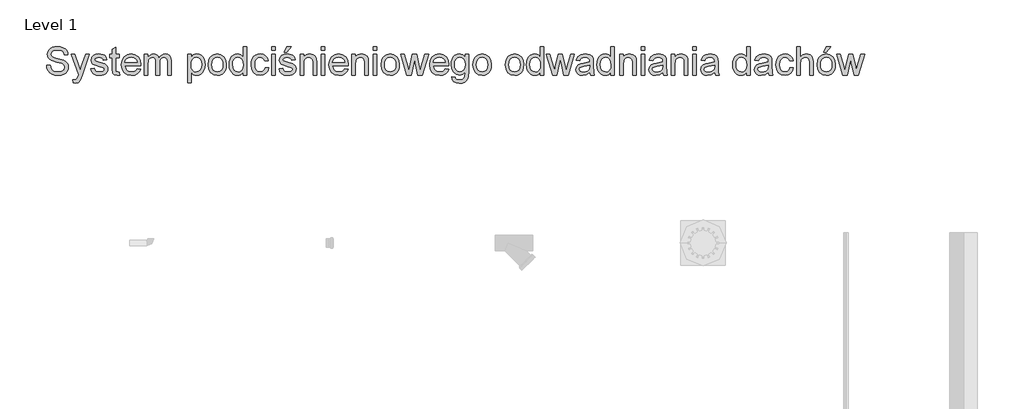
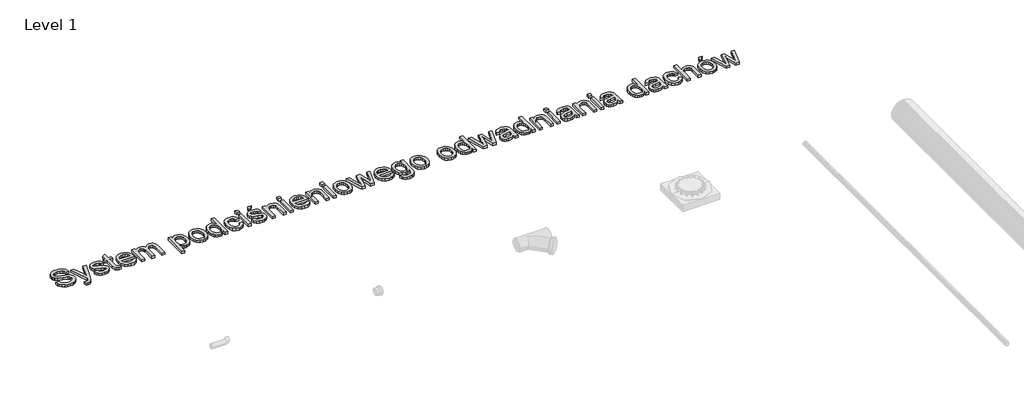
# One storey, part 3 of 3: 1 proxy.
"""IFC4 building model written with IfcOpenShell, lengths in millimetres."""

from ifc_helpers import new_model, si_unit, origin, origin_with_axes, place, context, project, spatial, polyline, outline, extrude, element, save

model = new_model("IFC4")

# Units and contexts
model_context = context("Model", 3, world=origin())
ifc_project = project(units=[si_unit("LENGTHUNIT", "METRE", prefix="MILLI")], contexts=[model_context])

# Site, building, storey
site = spatial("IfcSite", under=ifc_project)
building = spatial("IfcBuilding", under=site)
storey = spatial("IfcBuildingStorey", under=building, Name="Level 1", Elevation=0.0)

# Proxy
placement = place(None, origin())
element("IfcBuildingElementProxy", 1, Name="200mm Arial", ObjectType="200mm Arial", at=placement, inside=storey, context=model_context, shape_type="SweptSolid", body=[
    extrude(outline(polyline([(-18140.1100864, 2259.5263231), (-18114.9960089, 2259.5263231), (-18106.902605, 2234.3877201), (-18098.7724129, 2225.4972385), (-18087.1350791, 2218.4952179), (-18072.9103087, 2213.9518752), (-18057.0178065, 2212.4374277), (-18030.7755575, 2217.0236899), (-18013.8284602, 2229.6297796), (-18008.2611794, 2246.478775), (-18012.4305087, 2262.150548), (-18018.7826044, 2268.3493596), (-18029.5002332, 2273.5548898), (-18066.0677036, 2283.1443471), (-18105.431077, 2295.5297077), (-18117.9329335, 2303.9787308), (-18126.7927582, 2314.218113), (-18132.0718649, 2326.0271251), (-18133.8315671, 2339.1850377), (-18131.6549319, 2353.8941862), (-18125.1250265, 2367.6100532), (-18114.4135291, 2379.2351243), (-18099.6921179, 2387.6718847), (-18082.0215194, 2392.8038385), (-18062.46246, 2394.5144898), (-18041.2724571, 2392.7241308), (-18022.7312045, 2387.3530537), (-18007.5008899, 2378.511623), (-17996.2437009, 2366.3102035), (-17989.1190529, 2351.5090846), (-17986.2863615, 2334.8685557), (-18011.4004391, 2334.8685557), (-18016.0112267, 2349.8536156), (-18025.6252095, 2360.6693463), (-18040.6470577, 2367.2176458), (-18061.4814413, 2369.4004123), (-18082.8063343, 2367.2421712), (-18097.435775, 2360.7674481), (-18105.8970609, 2351.2393045), (-18108.7174895, 2339.9208017), (-18106.718664, 2330.2700307), (-18100.7221875, 2322.5077206), (-18086.5464679, 2315.5670137), (-18059.7156078, 2308.4791539), (-18015.2754628, 2295.8730642), (-18000.9587218, 2286.7618534), (-17990.9707256, 2275.5169271), (-17985.1030078, 2262.2609126), (-17983.1471018, 2247.1164371), (-17985.3973134, 2231.6347365), (-17992.147948, 2217.0727408), (-18003.1230942, 2204.5402275), (-18018.0468404, 2195.1469739), (-18035.9933504, 2189.2792561), (-18056.0367878, 2187.3233501), (-18080.6419619, 2189.4325402), (-18100.8938658, 2195.7601106), (-18117.0254912, 2206.3305866), (-18129.2698303, 2221.1684937), (-18137.1302423, 2239.2437624), (-18140.1100864, 2259.5263231)])), origin_with_axes(), (0.0, 0.0, 1.0), 20.0),
    extrude(outline(polyline([(-17948.6152452, 2133.9559354), (-17951.7545049, 2158.1380452), (-17939.0012624, 2155.9307532), (-17927.0818858, 2158.7021309), (-17919.7732968, 2166.4276528), (-17912.9061662, 2184.9198544), (-17910.9441289, 2191.0021701), (-17964.3115437, 2338.0078154), (-17937.82404, 2338.0078154), (-17909.5216519, 2256.0927578), (-17899.6624144, 2223.3267347), (-17889.8031769, 2252.266785), (-17860.7159738, 2338.0078154), (-17834.4246739, 2338.0078154), (-17885.7810004, 2186.9309427), (-17899.1228541, 2154.1649196), (-17913.6909811, 2136.4575329), (-17933.2623033, 2130.8166757), (-17948.6152452, 2133.9559354)])), origin_with_axes(), (0.0, 0.0, 1.0), 20.0),
    extrude(outline(polyline([(-17823.0448575, 2234.4122455), (-17797.93078, 2237.5515052), (-17793.9699172, 2226.809351), (-17786.305709, 2218.9121508), (-17774.8891044, 2214.0561085), (-17759.6710525, 2212.4374277), (-17744.6369416, 2213.9212184), (-17734.0664656, 2218.3725905), (-17727.8124717, 2224.8227882), (-17725.7278071, 2232.3030554), (-17727.8247345, 2238.7042021), (-17734.1155166, 2243.5847699), (-17759.9653581, 2250.7462061), (-17797.7836272, 2263.0334647), (-17807.3546904, 2269.2077509), (-17814.2892661, 2277.3808626), (-17819.9055978, 2297.6388978), (-17815.392912, 2316.3518286), (-17803.0811279, 2330.6501755), (-17787.1150493, 2338.0813918), (-17765.5081135, 2341.1470751), (-17734.9493824, 2336.2174563), (-17723.5205151, 2330.4171835), (-17715.5252131, 2322.8756026), (-17706.8922489, 2300.3366991), (-17732.0063265, 2297.1974394), (-17735.176243, 2305.1007709), (-17741.448631, 2311.0543279), (-17763.5460762, 2316.0329975), (-17777.9670504, 2314.8435124), (-17787.5810332, 2311.275057), (-17792.9888985, 2306.1247091), (-17794.7915203, 2300.1895463), (-17791.7994134, 2292.8809573), (-17782.4306853, 2287.3382019), (-17760.799224, 2281.9916502), (-17723.937448, 2270.1703755), (-17706.8186725, 2256.7794708), (-17702.1649653, 2246.9324961), (-17700.6137295, 2234.9518058), (-17702.4347454, 2222.5664453), (-17707.897793, 2210.9168488), (-17716.794406, 2200.9165899), (-17728.9161177, 2193.4792422), (-17743.5578211, 2188.8623232), (-17760.014409, 2187.3233501), (-17785.336953, 2190.2909316), (-17803.8168919, 2199.1936759), (-17816.1532015, 2213.9334811), (-17823.0448575, 2234.4122455)])), origin_with_axes(), (0.0, 0.0, 1.0), 20.0),
    extrude(outline(polyline([(-17618.9929775, 2211.4073581), (-17615.8537179, 2189.7268458), (-17634.6402251, 2187.3233501), (-17655.6830752, 2191.4926794), (-17666.1799748, 2202.4310374), (-17669.2211326, 2230.9296293), (-17669.2211326, 2312.8937378), (-17688.0566908, 2312.8937378), (-17688.0566908, 2338.0078154), (-17669.2211326, 2338.0078154), (-17669.2211326, 2373.8640472), (-17644.1070551, 2388.6283779), (-17644.1070551, 2338.0078154), (-17618.9929775, 2338.0078154), (-17618.9929775, 2312.8937378), (-17644.1070551, 2312.8937378), (-17644.1070551, 2231.6653933), (-17642.7826799, 2218.7159471), (-17638.4907233, 2214.1296849), (-17629.9313355, 2212.4374277), (-17618.9929775, 2211.4073581)])), origin_with_axes(), (0.0, 0.0, 1.0), 20.0),
    extrude(outline(polyline([(-17490.5776358, 2234.4122455), (-17465.9540676, 2231.2729858), (-17474.826155, 2212.7194705), (-17488.9834805, 2198.8503193), (-17508.1072128, 2190.2050924), (-17531.8785211, 2187.3233501), (-17561.3458689, 2192.2958884), (-17584.0196625, 2207.2135033), (-17598.4774249, 2231.1074389), (-17603.2966791, 2263.0089393), (-17598.428374, 2295.9834288), (-17583.8234588, 2320.6437852), (-17561.4562335, 2336.0212526), (-17533.3009981, 2341.1470751), (-17506.0225482, 2336.0335153), (-17484.22554, 2320.6928361), (-17469.9333245, 2296.0815306), (-17465.1692526, 2263.1560921), (-17465.3164054, 2256.3870634), (-17578.1826015, 2256.3870634), (-17573.8354626, 2237.5882934), (-17563.7371019, 2223.7681931), (-17549.1628435, 2215.270119), (-17531.3880118, 2212.4374277), (-17506.7644436, 2217.6858775), (-17497.6164446, 2224.4916944), (-17490.5776358, 2234.4122455)]), holes=[polyline([(-17578.1826015, 2281.5011409), (-17490.2833302, 2281.5011409), (-17493.6801073, 2294.7694182), (-17500.3387714, 2304.2607737), (-17514.9804748, 2313.0899416), (-17533.3991, 2316.0329975), (-17550.3278031, 2313.6846841), (-17564.3257131, 2306.6397439), (-17574.0561918, 2295.6584664), (-17578.1826015, 2281.5011409)])]), origin_with_axes(), (0.0, 0.0, 1.0), 20.0),
    extrude(outline(polyline([(-17440.0551751, 2190.4626098), (-17440.0551751, 2338.0078154), (-17414.9410976, 2338.0078154), (-17414.9410976, 2313.7276037), (-17407.3872539, 2324.8805595), (-17397.6751692, 2333.6177569), (-17386.1359373, 2339.2647455), (-17373.100652, 2341.1470751), (-17359.1333989, 2339.2279573), (-17347.9375235, 2333.4706041), (-17339.5743395, 2324.2551601), (-17334.1051605, 2311.9617701), (-17324.9510302, 2324.730341), (-17314.5093129, 2333.8507488), (-17302.7800086, 2339.3229935), (-17289.7631173, 2341.1470751), (-17270.8846396, 2338.1120486), (-17256.9235179, 2329.0069692), (-17248.2966851, 2313.5865823), (-17245.4210742, 2291.605633), (-17245.4210742, 2190.4626098), (-17270.5351517, 2190.4626098), (-17270.5351517, 2280.8144278), (-17272.865071, 2301.7837016), (-17281.3018314, 2312.1089229), (-17295.6492293, 2316.0329975), (-17309.2547317, 2313.5191372), (-17320.3463739, 2305.9775563), (-17327.7224079, 2292.89322), (-17330.1810859, 2273.7510935), (-17330.1810859, 2190.4626098), (-17355.2951634, 2190.4626098), (-17355.2951634, 2283.610331), (-17356.7482973, 2297.810576), (-17361.1076989, 2307.9395936), (-17368.7780385, 2314.0096465), (-17380.1639863, 2316.0329975), (-17398.7542898, 2310.6373949), (-17406.1119297, 2303.9909935), (-17411.1151248, 2294.8429946), (-17414.9410976, 2264.8728747), (-17414.9410976, 2190.4626098), (-17440.0551751, 2190.4626098)])), origin_with_axes(), (0.0, 0.0, 1.0), 20.0),
    extrude(outline(polyline([(-17129.2684656, 2133.9559354), (-17129.2684656, 2338.0078154), (-17104.154388, 2338.0078154), (-17104.154388, 2313.3842472), (-17086.7903579, 2334.2063681), (-17076.0972545, 2339.4118983), (-17063.344012, 2341.1470751), (-17046.3601266, 2338.7190539), (-17031.5099567, 2331.4349904), (-17019.4189018, 2319.7363429), (-17010.7123613, 2304.0645699), (-17005.4516487, 2285.5601056), (-17003.6980779, 2265.363384), (-17005.6785093, 2243.8852069), (-17011.6198035, 2224.6756354), (-17021.3318882, 2208.7095568), (-17034.6246909, 2196.9618584), (-17050.1063916, 2189.7329772), (-17066.3851699, 2187.3233501), (-17077.9305331, 2188.9358996), (-17088.2373604, 2193.7735478), (-17104.154388, 2210.0829829), (-17104.154388, 2133.9559354), (-17129.2684656, 2133.9559354)]), holes=[polyline([(-17104.154388, 2263.0579902), (-17101.4381926, 2240.5436121), (-17093.2896064, 2224.7982627), (-17081.2659966, 2215.5276364), (-17066.9247301, 2212.4374277), (-17052.3504717, 2215.638001), (-17040.0202935, 2225.2397211), (-17031.6141899, 2241.561419), (-17028.8121554, 2264.9219257), (-17031.5467449, 2287.3136764), (-17039.7505134, 2303.279755), (-17051.7557292, 2312.8446869), (-17065.8946605, 2316.0329975), (-17080.0887742, 2312.6423518), (-17092.5538424, 2302.4704146), (-17101.2542516, 2285.8360171), (-17104.154388, 2263.0579902)])]), origin_with_axes(), (0.0, 0.0, 1.0), 20.0),
    extrude(outline(polyline([(-16981.72326, 2264.2352126), (-16976.2908692, 2299.8094015), (-16969.5003807, 2313.6325675), (-16959.9936969, 2324.8131145), (-16939.858289, 2337.0635849), (-16915.7497556, 2341.1470751), (-16889.3664851, 2336.1745368), (-16868.2929782, 2321.2569219), (-16854.4790093, 2297.5714527), (-16849.874353, 2266.2953518), (-16851.9099667, 2240.9237568), (-16858.0168078, 2221.6099521), (-16868.0170667, 2207.1460583), (-16881.7329337, 2196.3241963), (-16898.0239748, 2189.5735617), (-16915.7497556, 2187.3233501), (-16942.451857, 2192.2774943), (-16963.5008385, 2207.1399269), (-16977.1676547, 2231.3220368), (-16981.72326, 2264.2352126)]), holes=[polyline([(-16956.6091825, 2264.2842635), (-16953.7029147, 2241.5552876), (-16944.9841114, 2225.3623484), (-16931.862987, 2215.6686579), (-16915.7497556, 2212.4374277), (-16899.7101006, 2215.687052), (-16886.6135015, 2225.4359248), (-16877.8946983, 2241.8434618), (-16874.9884305, 2265.0690785), (-16877.9130924, 2287.1358668), (-16886.6870779, 2303.1080768), (-16899.8020711, 2312.8017673), (-16915.7497556, 2316.0329975), (-16931.862987, 2312.8140301), (-16944.9841114, 2303.1571277), (-16953.7029147, 2287.0009767), (-16956.6091825, 2264.2842635)])]), origin_with_axes(), (0.0, 0.0, 1.0), 20.0),
    extrude(outline(polyline([(-16730.5824847, 2190.4626098), (-16730.5824847, 2214.1542103), (-16738.0964744, 2202.415709), (-16747.1984881, 2194.0310652), (-16757.8885258, 2189.0002789), (-16770.1665873, 2187.3233501), (-16786.4024461, 2189.7513713), (-16801.2648787, 2197.0354348), (-16813.8464429, 2208.6666372), (-16823.2396965, 2224.1360751), (-16829.0890202, 2242.8183491), (-16831.0387948, 2264.0880598), (-16829.2423044, 2285.0941217), (-16823.8528332, 2304.0645699), (-16814.8765125, 2319.9202839), (-16802.3194737, 2331.5821432), (-16787.1320787, 2338.7558421), (-16770.2646892, 2341.1470751), (-16757.9774306, 2339.4364238), (-16747.112649, 2334.3044699), (-16730.5824847, 2316.5235068), (-16730.5824847, 2391.3752301), (-16705.4684071, 2391.3752301), (-16705.4684071, 2190.4626098), (-16730.5824847, 2190.4626098)]), holes=[polyline([(-16805.9247173, 2264.1861617), (-16803.0920259, 2241.4694485), (-16794.5939518, 2225.3132975), (-16782.2453795, 2215.6563951), (-16767.8611935, 2212.4374277), (-16753.4831389, 2215.5092423), (-16741.4472663, 2224.7246863), (-16733.2986801, 2240.2554379), (-16730.5824847, 2262.2731753), (-16733.347731, 2286.3449205), (-16741.64347, 2303.0345004), (-16753.9859109, 2312.7833732), (-16768.8912631, 2316.0329975), (-16783.4226019, 2312.9121319), (-16795.3297158, 2303.5495351), (-16803.2759669, 2287.4669606), (-16805.9247173, 2264.1861617)])]), origin_with_axes(), (0.0, 0.0, 1.0), 20.0),
    extrude(outline(polyline([(-16573.6195001, 2243.8300246), (-16548.5054225, 2240.6907649), (-16555.5074432, 2218.3541964), (-16568.6653559, 2201.4745442), (-16586.7406245, 2190.8611487), (-16608.4947132, 2187.3233501), (-16635.2090774, 2192.2591002), (-16656.0986434, 2207.0663505), (-16669.5815185, 2231.0951762), (-16674.0758102, 2263.6956523), (-16672.1566925, 2286.0444835), (-16666.3993392, 2305.4134706), (-16656.71178, 2321.0545868), (-16643.0020443, 2332.2198053), (-16626.6006387, 2338.9152576), (-16608.8380697, 2341.1470751), (-16587.61741, 2338.0813918), (-16570.6519186, 2328.8843419), (-16558.481156, 2314.0464347), (-16551.6446822, 2294.0581797), (-16576.7587597, 2290.91892), (-16581.3143651, 2301.8756721), (-16588.4083563, 2309.7299527), (-16597.6483257, 2314.4572363), (-16608.641866, 2316.0329975), (-16624.8715933, 2312.930526), (-16637.7535945, 2303.6231115), (-16646.1596981, 2287.607982), (-16648.9617327, 2264.3823654), (-16646.2210118, 2240.8440491), (-16637.9988492, 2224.7737372), (-16625.3498399, 2215.5215051), (-16609.3285791, 2212.4374277), (-16596.3239505, 2214.3626768), (-16585.661504, 2220.1384241), (-16577.9053253, 2229.9118224), (-16573.6195001, 2243.8300246)])), origin_with_axes(), (0.0, 0.0, 1.0), 20.0),
    extrude(outline(polyline([(-16526.5306047, 2366.2611526), (-16526.5306047, 2391.3752301), (-16501.4165271, 2391.3752301), (-16501.4165271, 2366.2611526), (-16526.5306047, 2366.2611526)])), origin_with_axes(), (0.0, 0.0, 1.0), 20.0),
    extrude(outline(polyline([(-16526.5306047, 2190.4626098), (-16526.5306047, 2338.0078154), (-16501.4165271, 2338.0078154), (-16501.4165271, 2190.4626098), (-16526.5306047, 2190.4626098)])), origin_with_axes(), (0.0, 0.0, 1.0), 20.0),
    extrude(outline(polyline([(-16473.1631899, 2234.4122455), (-16448.0491124, 2237.5515052), (-16444.0882496, 2226.809351), (-16436.4240413, 2218.9121508), (-16425.0074367, 2214.0561085), (-16409.7893849, 2212.4374277), (-16394.755274, 2213.9212184), (-16384.184798, 2218.3725905), (-16377.9308041, 2224.8227882), (-16375.8461394, 2232.3030554), (-16377.9430668, 2238.7042021), (-16384.2338489, 2243.5847699), (-16410.0836905, 2250.7462061), (-16447.9019596, 2263.0334647), (-16457.4730228, 2269.2077509), (-16464.4075984, 2277.3808626), (-16470.0239302, 2297.6388978), (-16465.5112444, 2316.3518286), (-16453.1994603, 2330.6501755), (-16437.2333817, 2338.0813918), (-16415.6264459, 2341.1470751), (-16385.0677148, 2336.2174563), (-16373.6388475, 2330.4171835), (-16365.6435454, 2322.8756026), (-16357.0105813, 2300.3366991), (-16382.1246588, 2297.1974394), (-16385.2945754, 2305.1007709), (-16391.5669634, 2311.0543279), (-16413.6644085, 2316.0329975), (-16428.0853828, 2314.8435124), (-16437.6993656, 2311.275057), (-16443.1072309, 2306.1247091), (-16444.9098527, 2300.1895463), (-16441.9177458, 2292.8809573), (-16432.5490176, 2287.3382019), (-16410.9175563, 2281.9916502), (-16374.0557804, 2270.1703755), (-16356.9370049, 2256.7794708), (-16352.2832977, 2246.9324961), (-16350.7320619, 2234.9518058), (-16352.5530778, 2222.5664453), (-16358.0161254, 2210.9168488), (-16366.9127383, 2200.9165899), (-16379.0344501, 2193.4792422), (-16393.6761535, 2188.8623232), (-16410.1327414, 2187.3233501), (-16435.4552854, 2190.2909316), (-16453.9352243, 2199.1936759), (-16466.2715339, 2213.9334811), (-16473.1631899, 2234.4122455)])), origin_with_axes(), (0.0, 0.0, 1.0), 20.0),
    extrude(outline(polyline([(-16435.4920736, 2353.7041138), (-16416.6565154, 2391.3752301), (-16385.2639185, 2391.3752301), (-16416.6565154, 2353.7041138), (-16435.4920736, 2353.7041138)])), origin_with_axes(), (0.0, 0.0, 1.0), 20.0),
    extrude(outline(polyline([(-16322.4787247, 2190.4626098), (-16322.4787247, 2338.0078154), (-16297.3646471, 2338.0078154), (-16297.3646471, 2317.4064236), (-16288.6397125, 2327.7929586), (-16278.161207, 2335.2119122), (-16265.9291307, 2339.6632843), (-16251.9434835, 2341.1470751), (-16228.2273575, 2336.3646091), (-16212.0405497, 2323.8075704), (-16204.5112316, 2305.3398942), (-16203.1868564, 2281.0596825), (-16203.1868564, 2190.4626098), (-16228.3009339, 2190.4626098), (-16228.3009339, 2277.6751682), (-16231.1949389, 2299.8952407), (-16241.4220584, 2311.642939), (-16258.6634612, 2316.0329975), (-16273.3726097, 2313.5681882), (-16285.9112544, 2306.17376), (-16294.5012989, 2291.8876759), (-16297.3646471, 2268.7478984), (-16297.3646471, 2190.4626098), (-16322.4787247, 2190.4626098)])), origin_with_axes(), (0.0, 0.0, 1.0), 20.0),
    extrude(outline(polyline([(-16168.6549998, 2190.4626098), (-16168.6549998, 2338.0078154), (-16143.5409222, 2338.0078154), (-16143.5409222, 2190.4626098), (-16168.6549998, 2190.4626098)])), origin_with_axes(), (0.0, 0.0, 1.0), 20.0),
    extrude(outline(polyline([(-16168.6549998, 2366.2611526), (-16168.6549998, 2391.3752301), (-16143.5409222, 2391.3752301), (-16143.5409222, 2366.2611526), (-16168.6549998, 2366.2611526)])), origin_with_axes(), (0.0, 0.0, 1.0), 20.0),
    extrude(outline(polyline([(-16002.5685417, 2234.4122455), (-15977.9449735, 2231.2729858), (-15986.8170609, 2212.7194705), (-16000.9743864, 2198.8503193), (-16020.0981187, 2190.2050924), (-16043.869427, 2187.3233501), (-16073.3367748, 2192.2958884), (-16096.0105684, 2207.2135033), (-16110.4683309, 2231.1074389), (-16115.287585, 2263.0089393), (-16110.4192799, 2295.9834288), (-16095.8143647, 2320.6437852), (-16073.4471394, 2336.0212526), (-16045.291904, 2341.1470751), (-16018.0134541, 2336.0335153), (-15996.2164459, 2320.6928361), (-15981.9242304, 2296.0815306), (-15977.1601585, 2263.1560921), (-15977.3073113, 2256.3870634), (-16090.1735075, 2256.3870634), (-16085.8263685, 2237.5882934), (-16075.7280078, 2223.7681931), (-16061.1537494, 2215.270119), (-16043.3789177, 2212.4374277), (-16018.7553495, 2217.6858775), (-16009.6073505, 2224.4916944), (-16002.5685417, 2234.4122455)]), holes=[polyline([(-16090.1735075, 2281.5011409), (-16002.2742361, 2281.5011409), (-16005.6710132, 2294.7694182), (-16012.3296773, 2304.2607737), (-16026.9713807, 2313.0899416), (-16045.3900059, 2316.0329975), (-16062.3187091, 2313.6846841), (-16076.316619, 2306.6397439), (-16086.0470977, 2295.6584664), (-16090.1735075, 2281.5011409)])]), origin_with_axes(), (0.0, 0.0, 1.0), 20.0),
    extrude(outline(polyline([(-15952.046081, 2190.4626098), (-15952.046081, 2338.0078154), (-15926.9320035, 2338.0078154), (-15926.9320035, 2317.4064236), (-15918.2070688, 2327.7929586), (-15907.7285633, 2335.2119122), (-15895.496487, 2339.6632843), (-15881.5108398, 2341.1470751), (-15857.7947138, 2336.3646091), (-15841.607906, 2323.8075704), (-15834.0785879, 2305.3398942), (-15832.7542127, 2281.0596825), (-15832.7542127, 2190.4626098), (-15857.8682902, 2190.4626098), (-15857.8682902, 2277.6751682), (-15860.7622953, 2299.8952407), (-15870.9894147, 2311.642939), (-15888.2308176, 2316.0329975), (-15902.939966, 2313.5681882), (-15915.4786107, 2306.17376), (-15924.0686553, 2291.8876759), (-15926.9320035, 2268.7478984), (-15926.9320035, 2190.4626098), (-15952.046081, 2190.4626098)])), origin_with_axes(), (0.0, 0.0, 1.0), 20.0),
    extrude(outline(polyline([(-15798.2223561, 2366.2611526), (-15798.2223561, 2391.3752301), (-15773.1082785, 2391.3752301), (-15773.1082785, 2366.2611526), (-15798.2223561, 2366.2611526)])), origin_with_axes(), (0.0, 0.0, 1.0), 20.0),
    extrude(outline(polyline([(-15798.2223561, 2190.4626098), (-15798.2223561, 2338.0078154), (-15773.1082785, 2338.0078154), (-15773.1082785, 2190.4626098), (-15798.2223561, 2190.4626098)])), origin_with_axes(), (0.0, 0.0, 1.0), 20.0),
    extrude(outline(polyline([(-15741.7156816, 2264.2352126), (-15736.2832908, 2299.8094015), (-15729.4928023, 2313.6325675), (-15719.9861184, 2324.8131145), (-15699.8507106, 2337.0635849), (-15675.7421772, 2341.1470751), (-15649.3589067, 2336.1745368), (-15628.2853998, 2321.2569219), (-15614.4714309, 2297.5714527), (-15609.8667746, 2266.2953518), (-15611.9023883, 2240.9237568), (-15618.0092294, 2221.6099521), (-15628.0094883, 2207.1460583), (-15641.7253553, 2196.3241963), (-15658.0163964, 2189.5735617), (-15675.7421772, 2187.3233501), (-15702.4442786, 2192.2774943), (-15723.4932601, 2207.1399269), (-15737.1600763, 2231.3220368), (-15741.7156816, 2264.2352126)]), holes=[polyline([(-15716.6016041, 2264.2842635), (-15713.6953363, 2241.5552876), (-15704.976533, 2225.3623484), (-15691.8554085, 2215.6686579), (-15675.7421772, 2212.4374277), (-15659.7025222, 2215.687052), (-15646.6059231, 2225.4359248), (-15637.8871199, 2241.8434618), (-15634.9808521, 2265.0690785), (-15637.905514, 2287.1358668), (-15646.6794995, 2303.1080768), (-15659.7944927, 2312.8017673), (-15675.7421772, 2316.0329975), (-15691.8554085, 2312.8140301), (-15704.976533, 2303.1571277), (-15713.6953363, 2287.0009767), (-15716.6016041, 2264.2842635)])]), origin_with_axes(), (0.0, 0.0, 1.0), 20.0),
    extrude(outline(polyline([(-15557.1370219, 2190.4626098), (-15602.0186253, 2338.0078154), (-15575.9235291, 2338.0078154), (-15550.4660951, 2251.9234285), (-15542.8632005, 2221.1684937), (-15536.633732, 2250.795257), (-15516.3756968, 2338.0078154), (-15486.4546279, 2338.0078154), (-15466.2946946, 2251.0405117), (-15460.7519392, 2224.2096515), (-15452.8056881, 2252.5120397), (-15427.2992031, 2338.0078154), (-15401.106005, 2338.0078154), (-15446.330965, 2190.4626098), (-15476.6934923, 2190.4626098), (-15495.9705088, 2276.9884551), (-15501.5623152, 2303.9664681), (-15526.431138, 2190.4626098), (-15557.1370219, 2190.4626098)])), origin_with_axes(), (0.0, 0.0, 1.0), 20.0),
    extrude(outline(polyline([(-15280.5388125, 2234.4122455), (-15255.9152443, 2231.2729858), (-15264.7873317, 2212.7194705), (-15278.9446572, 2198.8503193), (-15298.0683895, 2190.2050924), (-15321.8396978, 2187.3233501), (-15351.3070456, 2192.2958884), (-15373.9808392, 2207.2135033), (-15388.4386017, 2231.1074389), (-15393.2578558, 2263.0089393), (-15388.3895507, 2295.9834288), (-15373.7846355, 2320.6437852), (-15351.4174102, 2336.0212526), (-15323.2621748, 2341.1470751), (-15295.9837249, 2336.0335153), (-15274.1867167, 2320.6928361), (-15259.8945012, 2296.0815306), (-15255.1304293, 2263.1560921), (-15255.2775821, 2256.3870634), (-15368.1437783, 2256.3870634), (-15363.7966393, 2237.5882934), (-15353.6982786, 2223.7681931), (-15339.1240202, 2215.270119), (-15321.3491885, 2212.4374277), (-15296.7256203, 2217.6858775), (-15287.5776213, 2224.4916944), (-15280.5388125, 2234.4122455)]), holes=[polyline([(-15368.1437783, 2281.5011409), (-15280.2445069, 2281.5011409), (-15283.641284, 2294.7694182), (-15290.2999481, 2304.2607737), (-15304.9416515, 2313.0899416), (-15323.3602767, 2316.0329975), (-15340.2889799, 2313.6846841), (-15354.2868898, 2306.6397439), (-15364.0173685, 2295.6584664), (-15368.1437783, 2281.5011409)])]), origin_with_axes(), (0.0, 0.0, 1.0), 20.0),
    extrude(outline(polyline([(-15236.2948712, 2177.9055711), (-15211.1807936, 2174.7663114), (-15208.409416, 2166.9181621), (-15203.0383388, 2161.5225595), (-15192.4801256, 2157.3287048), (-15178.6600253, 2155.9307532), (-15163.92022, 2157.5126458), (-15152.9573365, 2162.2583235), (-15145.354442, 2169.8612181), (-15140.6946034, 2180.0147612), (-15138.9778207, 2209.298168), (-15156.660682, 2195.1714994), (-15178.2185669, 2190.4626098), (-15204.111328, 2195.9440516), (-15223.4190014, 2212.3883767), (-15235.4303485, 2236.4969102), (-15239.4341309, 2264.9709766), (-15237.6376405, 2285.2474059), (-15232.2481692, 2303.8928917), (-15223.4557896, 2319.6934234), (-15211.4505738, 2331.4349904), (-15196.6433235, 2338.7190539), (-15179.4448402, 2341.1470751), (-15157.0408267, 2335.6533706), (-15138.9778207, 2319.1722572), (-15138.9778207, 2338.0078154), (-15113.8637432, 2338.0078154), (-15113.8637432, 2210.6225432), (-15115.5805258, 2181.2103777), (-15120.7308738, 2161.8413906), (-15129.6029612, 2148.9961776), (-15142.4849624, 2139.1553342), (-15159.0948345, 2132.9013403), (-15179.1505346, 2130.8166757), (-15202.5171727, 2133.7536003), (-15220.9174038, 2142.5643741), (-15232.7202845, 2157.2735225), (-15236.2948712, 2177.9055711)]), holes=[polyline([(-15214.3200533, 2266.6877592), (-15211.6406461, 2243.652215), (-15203.6024245, 2227.8148951), (-15191.517501, 2218.6362393), (-15176.697988, 2215.5766874), (-15161.9888395, 2218.6178452), (-15149.8426023, 2227.7413187), (-15141.6940161, 2243.3763035), (-15138.9778207, 2265.9519952), (-15141.7737239, 2287.724478), (-15150.1614334, 2303.4023824), (-15162.4854802, 2312.8753437), (-15177.0903954, 2316.0329975), (-15191.4316619, 2312.9243947), (-15203.4552717, 2303.5985861), (-15211.6038579, 2288.1536737), (-15214.3200533, 2266.6877592)])]), origin_with_axes(), (0.0, 0.0, 1.0), 20.0),
    extrude(outline(polyline([(-15082.4711463, 2264.2352126), (-15077.0387555, 2299.8094015), (-15070.248267, 2313.6325675), (-15060.7415831, 2324.8131145), (-15040.6061752, 2337.0635849), (-15016.4976418, 2341.1470751), (-14990.1143714, 2336.1745368), (-14969.0408644, 2321.2569219), (-14955.2268955, 2297.5714527), (-14950.6222392, 2266.2953518), (-14952.6578529, 2240.9237568), (-14958.764694, 2221.6099521), (-14968.7649529, 2207.1460583), (-14982.48082, 2196.3241963), (-14998.771861, 2189.5735617), (-15016.4976418, 2187.3233501), (-15043.1997433, 2192.2774943), (-15064.2487248, 2207.1399269), (-15077.9155409, 2231.3220368), (-15082.4711463, 2264.2352126)]), holes=[polyline([(-15057.3570687, 2264.2842635), (-15054.450801, 2241.5552876), (-15045.7319977, 2225.3623484), (-15032.6108732, 2215.6686579), (-15016.4976418, 2212.4374277), (-15000.4579868, 2215.687052), (-14987.3613878, 2225.4359248), (-14978.6425845, 2241.8434618), (-14975.7363167, 2265.0690785), (-14978.6609786, 2287.1358668), (-14987.4349642, 2303.1080768), (-15000.5499573, 2312.8017673), (-15016.4976418, 2316.0329975), (-15032.6108732, 2312.8140301), (-15045.7319977, 2303.1571277), (-15054.450801, 2287.0009767), (-15057.3570687, 2264.2842635)])]), origin_with_axes(), (0.0, 0.0, 1.0), 20.0),
    extrude(outline(polyline([(-14850.165929, 2264.2352126), (-14844.7335383, 2299.8094015), (-14837.9430498, 2313.6325675), (-14828.4363659, 2324.8131145), (-14808.300958, 2337.0635849), (-14784.1924246, 2341.1470751), (-14757.8091542, 2336.1745368), (-14736.7356472, 2321.2569219), (-14722.9216783, 2297.5714527), (-14718.317022, 2266.2953518), (-14720.3526357, 2240.9237568), (-14726.4594768, 2221.6099521), (-14736.4597357, 2207.1460583), (-14750.1756028, 2196.3241963), (-14766.4666438, 2189.5735617), (-14784.1924246, 2187.3233501), (-14810.8945261, 2192.2774943), (-14831.9435076, 2207.1399269), (-14845.6103237, 2231.3220368), (-14850.165929, 2264.2352126)]), holes=[polyline([(-14825.0518515, 2264.2842635), (-14822.1455837, 2241.5552876), (-14813.4267805, 2225.3623484), (-14800.305656, 2215.6686579), (-14784.1924246, 2212.4374277), (-14768.1527696, 2215.687052), (-14755.0561706, 2225.4359248), (-14746.3373673, 2241.8434618), (-14743.4310995, 2265.0690785), (-14746.3557614, 2287.1358668), (-14755.129747, 2303.1080768), (-14768.2447401, 2312.8017673), (-14784.1924246, 2316.0329975), (-14800.305656, 2312.8140301), (-14813.4267805, 2303.1571277), (-14822.1455837, 2287.0009767), (-14825.0518515, 2264.2842635)])]), origin_with_axes(), (0.0, 0.0, 1.0), 20.0),
    extrude(outline(polyline([(-14599.0251537, 2190.4626098), (-14599.0251537, 2214.1542103), (-14606.5391434, 2202.415709), (-14615.6411571, 2194.0310652), (-14626.3311948, 2189.0002789), (-14638.6092564, 2187.3233501), (-14654.8451151, 2189.7513713), (-14669.7075477, 2197.0354348), (-14682.2891119, 2208.6666372), (-14691.6823655, 2224.1360751), (-14697.5316892, 2242.8183491), (-14699.4814638, 2264.0880598), (-14697.6849734, 2285.0941217), (-14692.2955022, 2304.0645699), (-14683.3191815, 2319.9202839), (-14670.7621427, 2331.5821432), (-14655.5747477, 2338.7558421), (-14638.7073582, 2341.1470751), (-14626.4200996, 2339.4364238), (-14615.555318, 2334.3044699), (-14599.0251537, 2316.5235068), (-14599.0251537, 2391.3752301), (-14573.9110761, 2391.3752301), (-14573.9110761, 2190.4626098), (-14599.0251537, 2190.4626098)]), holes=[polyline([(-14674.3673863, 2264.1861617), (-14671.5346949, 2241.4694485), (-14663.0366208, 2225.3132975), (-14650.6880485, 2215.6563951), (-14636.3038625, 2212.4374277), (-14621.9258079, 2215.5092423), (-14609.8899353, 2224.7246863), (-14601.7413491, 2240.2554379), (-14599.0251537, 2262.2731753), (-14601.7904, 2286.3449205), (-14610.086139, 2303.0345004), (-14622.4285799, 2312.7833732), (-14637.3339321, 2316.0329975), (-14651.8652709, 2312.9121319), (-14663.7723848, 2303.5495351), (-14671.7186359, 2287.4669606), (-14674.3673863, 2264.1861617)])]), origin_with_axes(), (0.0, 0.0, 1.0), 20.0),
    extrude(outline(polyline([(-14511.7635444, 2190.4626098), (-14556.6451478, 2338.0078154), (-14530.5500516, 2338.0078154), (-14505.0926176, 2251.9234285), (-14497.489723, 2221.1684937), (-14491.2602546, 2250.795257), (-14471.0022194, 2338.0078154), (-14441.0811504, 2338.0078154), (-14420.9212171, 2251.0405117), (-14415.3784617, 2224.2096515), (-14407.4322106, 2252.5120397), (-14381.9257256, 2338.0078154), (-14355.7325275, 2338.0078154), (-14400.9574875, 2190.4626098), (-14431.3200148, 2190.4626098), (-14450.5970314, 2276.9884551), (-14456.1888377, 2303.9664681), (-14481.0576606, 2190.4626098), (-14511.7635444, 2190.4626098)])), origin_with_axes(), (0.0, 0.0, 1.0), 20.0),
    extrude(outline(polyline([(-14244.2888085, 2209.298168), (-14268.6425965, 2192.2774943), (-14295.5470331, 2187.3233501), (-14316.5347009, 2190.3031943), (-14332.0164016, 2199.2427268), (-14341.5629393, 2212.8175724), (-14344.7451186, 2229.703356), (-14339.9381272, 2249.5689837), (-14327.307512, 2263.9899579), (-14309.7227527, 2272.2305146), (-14287.9931895, 2276.0074364), (-14244.4359613, 2284.6404006), (-14244.2888085, 2290.2322069), (-14246.0178538, 2301.440345), (-14251.20499, 2308.7734595), (-14262.8055355, 2314.218113), (-14278.9678179, 2316.0329975), (-14293.9283523, 2314.8251183), (-14304.376201, 2311.2014806), (-14311.500849, 2304.499897), (-14316.4917814, 2294.0581797), (-14341.6058589, 2297.1974394), (-14330.7410773, 2321.7229057), (-14321.4827138, 2329.9757251), (-14308.8643613, 2336.094829), (-14275.7304563, 2341.1470751), (-14245.2943526, 2336.6834402), (-14228.1020007, 2325.4753021), (-14220.4010042, 2308.430103), (-14219.1747309, 2286.4552851), (-14219.1747309, 2255.209841), (-14217.8994067, 2211.5790364), (-14212.8962115, 2190.4626098), (-14238.0102891, 2190.4626098), (-14244.2888085, 2209.298168)]), holes=[polyline([(-14244.2888085, 2259.5263231), (-14284.8048789, 2251.8253266), (-14306.4118147, 2247.7540992), (-14316.1974758, 2241.1322233), (-14319.6310411, 2231.4691896), (-14317.7609743, 2224.0011851), (-14312.1507738, 2217.8820812), (-14302.9230671, 2213.7985911), (-14290.2004815, 2212.4374277), (-14276.711475, 2213.9396125), (-14264.7920983, 2218.4461669), (-14248.4090868, 2232.9897685), (-14244.4359613, 2252.4139378), (-14244.2888085, 2259.5263231)])]), origin_with_axes(), (0.0, 0.0, 1.0), 20.0),
    extrude(outline(polyline([(-14093.6043432, 2190.4626098), (-14093.6043432, 2214.1542103), (-14101.118333, 2202.415709), (-14110.2203467, 2194.0310652), (-14120.9103843, 2189.0002789), (-14133.1884459, 2187.3233501), (-14149.4243046, 2189.7513713), (-14164.2867372, 2197.0354348), (-14176.8683015, 2208.6666372), (-14186.2615551, 2224.1360751), (-14192.1108788, 2242.8183491), (-14194.0606534, 2264.0880598), (-14192.264163, 2285.0941217), (-14186.8746917, 2304.0645699), (-14177.8983711, 2319.9202839), (-14165.3413323, 2331.5821432), (-14150.1539373, 2338.7558421), (-14133.2865478, 2341.1470751), (-14120.9992891, 2339.4364238), (-14110.1345075, 2334.3044699), (-14093.6043432, 2316.5235068), (-14093.6043432, 2391.3752301), (-14068.4902657, 2391.3752301), (-14068.4902657, 2190.4626098), (-14093.6043432, 2190.4626098)]), holes=[polyline([(-14168.9465758, 2264.1861617), (-14166.1138845, 2241.4694485), (-14157.6158104, 2225.3132975), (-14145.2672381, 2215.6563951), (-14130.8830521, 2212.4374277), (-14116.5049974, 2215.5092423), (-14104.4691248, 2224.7246863), (-14096.3205386, 2240.2554379), (-14093.6043432, 2262.2731753), (-14096.3695896, 2286.3449205), (-14104.6653286, 2303.0345004), (-14117.0077695, 2312.7833732), (-14131.9131217, 2316.0329975), (-14146.4444605, 2312.9121319), (-14158.3515744, 2303.5495351), (-14166.2978255, 2287.4669606), (-14168.9465758, 2264.1861617)])]), origin_with_axes(), (0.0, 0.0, 1.0), 20.0),
    extrude(outline(polyline([(-14030.8191494, 2190.4626098), (-14030.8191494, 2338.0078154), (-14005.7050719, 2338.0078154), (-14005.7050719, 2317.4064236), (-13996.9801372, 2327.7929586), (-13986.5016317, 2335.2119122), (-13974.2695554, 2339.6632843), (-13960.2839082, 2341.1470751), (-13936.5677822, 2336.3646091), (-13920.3809744, 2323.8075704), (-13912.8516563, 2305.3398942), (-13911.5272811, 2281.0596825), (-13911.5272811, 2190.4626098), (-13936.6413586, 2190.4626098), (-13936.6413586, 2277.6751682), (-13939.5353637, 2299.8952407), (-13949.7624831, 2311.642939), (-13967.003886, 2316.0329975), (-13981.7130344, 2313.5681882), (-13994.2516791, 2306.17376), (-14002.8417237, 2291.8876759), (-14005.7050719, 2268.7478984), (-14005.7050719, 2190.4626098), (-14030.8191494, 2190.4626098)])), origin_with_axes(), (0.0, 0.0, 1.0), 20.0),
    extrude(outline(polyline([(-13876.9954245, 2366.2611526), (-13876.9954245, 2391.3752301), (-13851.8813469, 2391.3752301), (-13851.8813469, 2366.2611526), (-13876.9954245, 2366.2611526)])), origin_with_axes(), (0.0, 0.0, 1.0), 20.0),
    extrude(outline(polyline([(-13876.9954245, 2190.4626098), (-13876.9954245, 2338.0078154), (-13851.8813469, 2338.0078154), (-13851.8813469, 2190.4626098), (-13876.9954245, 2190.4626098)])), origin_with_axes(), (0.0, 0.0, 1.0), 20.0),
    extrude(outline(polyline([(-13720.0324399, 2209.298168), (-13744.3862279, 2192.2774943), (-13771.2906645, 2187.3233501), (-13792.2783324, 2190.3031943), (-13807.760033, 2199.2427268), (-13817.3065708, 2212.8175724), (-13820.48875, 2229.703356), (-13815.6817586, 2249.5689837), (-13803.0511434, 2263.9899579), (-13785.4663841, 2272.2305146), (-13763.7368209, 2276.0074364), (-13720.1795927, 2284.6404006), (-13720.0324399, 2290.2322069), (-13721.7614852, 2301.440345), (-13726.9486214, 2308.7734595), (-13738.549167, 2314.218113), (-13754.7114493, 2316.0329975), (-13769.6719837, 2314.8251183), (-13780.1198324, 2311.2014806), (-13787.2444804, 2304.499897), (-13792.2354128, 2294.0581797), (-13817.3494903, 2297.1974394), (-13806.4847087, 2321.7229057), (-13797.2263452, 2329.9757251), (-13784.6079928, 2336.094829), (-13751.4740877, 2341.1470751), (-13721.037984, 2336.6834402), (-13703.8456321, 2325.4753021), (-13696.1446356, 2308.430103), (-13694.9183623, 2286.4552851), (-13694.9183623, 2255.209841), (-13693.6430381, 2211.5790364), (-13688.6398429, 2190.4626098), (-13713.7539205, 2190.4626098), (-13720.0324399, 2209.298168)]), holes=[polyline([(-13720.0324399, 2259.5263231), (-13760.5485103, 2251.8253266), (-13782.1554461, 2247.7540992), (-13791.9411072, 2241.1322233), (-13795.3746725, 2231.4691896), (-13793.5046057, 2224.0011851), (-13787.8944052, 2217.8820812), (-13778.6666985, 2213.7985911), (-13765.9441129, 2212.4374277), (-13752.4551064, 2213.9396125), (-13740.5357297, 2218.4461669), (-13724.1527182, 2232.9897685), (-13720.1795927, 2252.4139378), (-13720.0324399, 2259.5263231)])]), origin_with_axes(), (0.0, 0.0, 1.0), 20.0),
    extrude(outline(polyline([(-13660.3865057, 2190.4626098), (-13660.3865057, 2338.0078154), (-13635.2724282, 2338.0078154), (-13635.2724282, 2317.4064236), (-13626.5474935, 2327.7929586), (-13616.068988, 2335.2119122), (-13603.8369117, 2339.6632843), (-13589.8512645, 2341.1470751), (-13566.1351385, 2336.3646091), (-13549.9483308, 2323.8075704), (-13542.4190126, 2305.3398942), (-13541.0946374, 2281.0596825), (-13541.0946374, 2190.4626098), (-13566.2087149, 2190.4626098), (-13566.2087149, 2277.6751682), (-13569.10272, 2299.8952407), (-13579.3298394, 2311.642939), (-13596.5712423, 2316.0329975), (-13611.2803907, 2313.5681882), (-13623.8190354, 2306.17376), (-13632.40908, 2291.8876759), (-13635.2724282, 2268.7478984), (-13635.2724282, 2190.4626098), (-13660.3865057, 2190.4626098)])), origin_with_axes(), (0.0, 0.0, 1.0), 20.0),
    extrude(outline(polyline([(-13506.5627808, 2190.4626098), (-13506.5627808, 2338.0078154), (-13481.4487033, 2338.0078154), (-13481.4487033, 2190.4626098), (-13506.5627808, 2190.4626098)])), origin_with_axes(), (0.0, 0.0, 1.0), 20.0),
    extrude(outline(polyline([(-13506.5627808, 2366.2611526), (-13506.5627808, 2391.3752301), (-13481.4487033, 2391.3752301), (-13481.4487033, 2366.2611526), (-13506.5627808, 2366.2611526)])), origin_with_axes(), (0.0, 0.0, 1.0), 20.0),
    extrude(outline(polyline([(-13349.5997962, 2209.298168), (-13373.9535843, 2192.2774943), (-13400.8580208, 2187.3233501), (-13421.8456887, 2190.3031943), (-13437.3273893, 2199.2427268), (-13446.8739271, 2212.8175724), (-13450.0561063, 2229.703356), (-13445.2491149, 2249.5689837), (-13432.6184998, 2263.9899579), (-13415.0337404, 2272.2305146), (-13393.3041772, 2276.0074364), (-13349.746949, 2284.6404006), (-13349.5997962, 2290.2322069), (-13351.3288416, 2301.440345), (-13356.5159777, 2308.7734595), (-13368.1165233, 2314.218113), (-13384.2788056, 2316.0329975), (-13399.2393401, 2314.8251183), (-13409.6871887, 2311.2014806), (-13416.8118367, 2304.499897), (-13421.8027691, 2294.0581797), (-13446.9168466, 2297.1974394), (-13436.0520651, 2321.7229057), (-13426.7937015, 2329.9757251), (-13414.1753491, 2336.094829), (-13381.041444, 2341.1470751), (-13350.6053403, 2336.6834402), (-13333.4129884, 2325.4753021), (-13325.711992, 2308.430103), (-13324.4857187, 2286.4552851), (-13324.4857187, 2255.209841), (-13323.2103944, 2211.5790364), (-13318.2071993, 2190.4626098), (-13343.3212768, 2190.4626098), (-13349.5997962, 2209.298168)]), holes=[polyline([(-13349.5997962, 2259.5263231), (-13390.1158666, 2251.8253266), (-13411.7228024, 2247.7540992), (-13421.5084635, 2241.1322233), (-13424.9420288, 2231.4691896), (-13423.071962, 2224.0011851), (-13417.4617616, 2217.8820812), (-13408.2340549, 2213.7985911), (-13395.5114692, 2212.4374277), (-13382.0224627, 2213.9396125), (-13370.1030861, 2218.4461669), (-13353.7200745, 2232.9897685), (-13349.746949, 2252.4139378), (-13349.5997962, 2259.5263231)])]), origin_with_axes(), (0.0, 0.0, 1.0), 20.0),
    extrude(outline(polyline([(-13120.4338387, 2190.4626098), (-13120.4338387, 2214.1542103), (-13127.9478284, 2202.415709), (-13137.0498421, 2194.0310652), (-13147.7398798, 2189.0002789), (-13160.0179413, 2187.3233501), (-13176.2538001, 2189.7513713), (-13191.1162327, 2197.0354348), (-13203.6977969, 2208.6666372), (-13213.0910505, 2224.1360751), (-13218.9403742, 2242.8183491), (-13220.8901488, 2264.0880598), (-13219.0936584, 2285.0941217), (-13213.7041872, 2304.0645699), (-13204.7278665, 2319.9202839), (-13192.1708277, 2331.5821432), (-13176.9834327, 2338.7558421), (-13160.1160432, 2341.1470751), (-13147.8287846, 2339.4364238), (-13136.964003, 2334.3044699), (-13120.4338387, 2316.5235068), (-13120.4338387, 2391.3752301), (-13095.3197611, 2391.3752301), (-13095.3197611, 2190.4626098), (-13120.4338387, 2190.4626098)]), holes=[polyline([(-13195.7760713, 2264.1861617), (-13192.9433799, 2241.4694485), (-13184.4453058, 2225.3132975), (-13172.0967335, 2215.6563951), (-13157.7125475, 2212.4374277), (-13143.3344929, 2215.5092423), (-13131.2986202, 2224.7246863), (-13123.1500341, 2240.2554379), (-13120.4338387, 2262.2731753), (-13123.199085, 2286.3449205), (-13131.494824, 2303.0345004), (-13143.8372649, 2312.7833732), (-13158.7426171, 2316.0329975), (-13173.2739559, 2312.9121319), (-13185.1810698, 2303.5495351), (-13193.1273209, 2287.4669606), (-13195.7760713, 2264.1861617)])]), origin_with_axes(), (0.0, 0.0, 1.0), 20.0),
    extrude(outline(polyline([(-12963.4708541, 2209.298168), (-12987.8246421, 2192.2774943), (-13014.7290787, 2187.3233501), (-13035.7167465, 2190.3031943), (-13051.1984472, 2199.2427268), (-13060.7449849, 2212.8175724), (-13063.9271642, 2229.703356), (-13059.1201728, 2249.5689837), (-13046.4895576, 2263.9899579), (-13028.9047983, 2272.2305146), (-13007.1752351, 2276.0074364), (-12963.6180068, 2284.6404006), (-12963.4708541, 2290.2322069), (-12965.1998994, 2301.440345), (-12970.3870356, 2308.7734595), (-12981.9875811, 2314.218113), (-12998.1498635, 2316.0329975), (-13013.1103979, 2314.8251183), (-13023.5582466, 2311.2014806), (-13030.6828946, 2304.499897), (-13035.673827, 2294.0581797), (-13060.7879045, 2297.1974394), (-13049.9231229, 2321.7229057), (-13040.6647594, 2329.9757251), (-13028.0464069, 2336.094829), (-12994.9125019, 2341.1470751), (-12964.4763982, 2336.6834402), (-12947.2840463, 2325.4753021), (-12939.5830498, 2308.430103), (-12938.3567765, 2286.4552851), (-12938.3567765, 2255.209841), (-12937.0814523, 2211.5790364), (-12932.0782571, 2190.4626098), (-12957.1923347, 2190.4626098), (-12963.4708541, 2209.298168)]), holes=[polyline([(-12963.4708541, 2259.5263231), (-13003.9869245, 2251.8253266), (-13025.5938603, 2247.7540992), (-13035.3795214, 2241.1322233), (-13038.8130867, 2231.4691896), (-13036.9430199, 2224.0011851), (-13031.3328194, 2217.8820812), (-13022.1051127, 2213.7985911), (-13009.382527, 2212.4374277), (-12995.8935206, 2213.9396125), (-12983.9741439, 2218.4461669), (-12967.5911324, 2232.9897685), (-12963.6180068, 2252.4139378), (-12963.4708541, 2259.5263231)])]), origin_with_axes(), (0.0, 0.0, 1.0), 20.0),
    extrude(outline(polyline([(-12809.6471291, 2243.8300246), (-12784.5330516, 2240.6907649), (-12791.5350722, 2218.3541964), (-12804.6929849, 2201.4745442), (-12822.7682536, 2190.8611487), (-12844.5223423, 2187.3233501), (-12871.2367065, 2192.2591002), (-12892.1262725, 2207.0663505), (-12905.6091476, 2231.0951762), (-12910.1034393, 2263.6956523), (-12908.1843215, 2286.0444835), (-12902.4269683, 2305.4134706), (-12892.7394091, 2321.0545868), (-12879.0296734, 2332.2198053), (-12862.6282678, 2338.9152576), (-12844.8656988, 2341.1470751), (-12823.6450391, 2338.0813918), (-12806.6795477, 2328.8843419), (-12794.508785, 2314.0464347), (-12787.6723113, 2294.0581797), (-12812.7863888, 2290.91892), (-12817.3419942, 2301.8756721), (-12824.4359853, 2309.7299527), (-12833.6759548, 2314.4572363), (-12844.6694951, 2316.0329975), (-12860.8992224, 2312.930526), (-12873.7812236, 2303.6231115), (-12882.1873272, 2287.607982), (-12884.9893617, 2264.3823654), (-12882.2486409, 2240.8440491), (-12874.0264783, 2224.7737372), (-12861.377469, 2215.5215051), (-12845.3562081, 2212.4374277), (-12832.3515796, 2214.3626768), (-12821.6891331, 2220.1384241), (-12813.9329544, 2229.9118224), (-12809.6471291, 2243.8300246)])), origin_with_axes(), (0.0, 0.0, 1.0), 20.0),
    extrude(outline(polyline([(-12762.5582338, 2190.4626098), (-12762.5582338, 2391.3752301), (-12737.4441562, 2391.3752301), (-12737.4441562, 2317.5045255), (-12717.8605713, 2335.2364377), (-12693.7397752, 2341.1470751), (-12678.5707743, 2339.5345256), (-12665.5354889, 2334.6968774), (-12655.2715812, 2327.0142751), (-12648.4167134, 2316.8668634), (-12644.5539524, 2302.9241358), (-12643.2663654, 2283.8555857), (-12643.2663654, 2190.4626098), (-12668.380443, 2190.4626098), (-12668.380443, 2281.2558862), (-12670.3792685, 2296.9767102), (-12676.375745, 2307.7433899), (-12686.0387788, 2313.9605956), (-12699.0372759, 2316.0329975), (-12719.6141422, 2310.4411912), (-12727.8669616, 2303.8561035), (-12733.3484033, 2295.284453), (-12737.4441562, 2268.8460003), (-12737.4441562, 2190.4626098), (-12762.5582338, 2190.4626098)])), origin_with_axes(), (0.0, 0.0, 1.0), 20.0),
    extrude(outline(polyline([(-12615.0130282, 2264.2352126), (-12609.5806374, 2299.8094015), (-12602.7901489, 2313.6325675), (-12593.283465, 2324.8131145), (-12573.1480572, 2337.0635849), (-12549.0395238, 2341.1470751), (-12522.6562533, 2336.1745368), (-12501.5827464, 2321.2569219), (-12487.7687775, 2297.5714527), (-12483.1641211, 2266.2953518), (-12485.1997349, 2240.9237568), (-12491.306576, 2221.6099521), (-12501.3068349, 2207.1460583), (-12515.0227019, 2196.3241963), (-12531.3137429, 2189.5735617), (-12549.0395238, 2187.3233501), (-12575.7416252, 2192.2774943), (-12596.7906067, 2207.1399269), (-12610.4574228, 2231.3220368), (-12615.0130282, 2264.2352126)]), holes=[polyline([(-12589.8989507, 2264.2842635), (-12586.9926829, 2241.5552876), (-12578.2738796, 2225.3623484), (-12565.1527551, 2215.6686579), (-12549.0395238, 2212.4374277), (-12532.9998688, 2215.687052), (-12519.9032697, 2225.4359248), (-12511.1844664, 2241.8434618), (-12508.2781987, 2265.0690785), (-12511.2028605, 2287.1358668), (-12519.9768461, 2303.1080768), (-12533.0918393, 2312.8017673), (-12549.0395238, 2316.0329975), (-12565.1527551, 2312.8140301), (-12578.2738796, 2303.1571277), (-12586.9926829, 2287.0009767), (-12589.8989507, 2264.2842635)])]), origin_with_axes(), (0.0, 0.0, 1.0), 20.0),
    extrude(outline(polyline([(-12567.9241328, 2353.7041138), (-12549.0885747, 2391.3752301), (-12517.6959778, 2391.3752301), (-12549.0885747, 2353.7041138), (-12567.9241328, 2353.7041138)])), origin_with_axes(), (0.0, 0.0, 1.0), 20.0),
    extrude(outline(polyline([(-12430.4343685, 2190.4626098), (-12475.3159719, 2338.0078154), (-12449.2208757, 2338.0078154), (-12423.7634417, 2251.9234285), (-12416.1605471, 2221.1684937), (-12409.9310786, 2250.795257), (-12389.6730434, 2338.0078154), (-12359.7519745, 2338.0078154), (-12339.5920412, 2251.0405117), (-12334.0492858, 2224.2096515), (-12326.1030347, 2252.5120397), (-12300.5965497, 2338.0078154), (-12274.4033516, 2338.0078154), (-12319.6283116, 2190.4626098), (-12349.9908389, 2190.4626098), (-12369.2678554, 2276.9884551), (-12374.8596618, 2303.9664681), (-12399.7284846, 2190.4626098), (-12430.4343685, 2190.4626098)])), origin_with_axes(), (0.0, 0.0, 1.0), 20.0),
])

save(model, "model.ifc")
